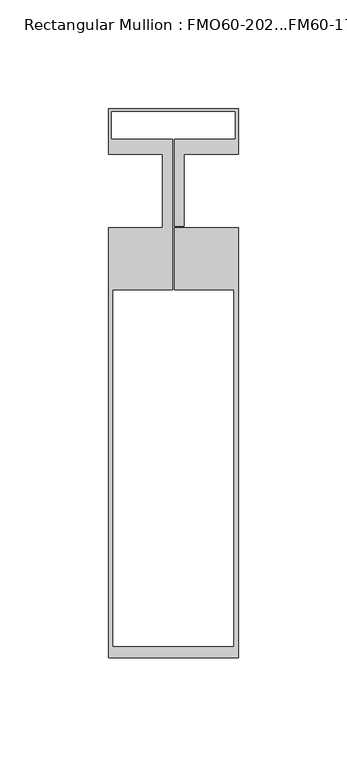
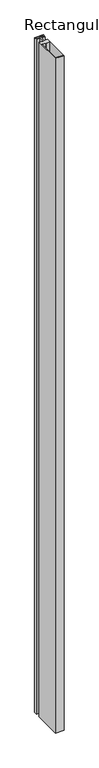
"""IFC4 building model written with IfcOpenShell, lengths in millimetres: member geometry, Rectangular Mullion : FMO60-202...FM60-17."""

from ifc_helpers import new_model, si_unit, point, frame, frame_2d, origin, place, context, project, spatial, polyline, circle_curve, trimmed, segment, composite_curve, outline, extrude, source, transform, mapped, element, save


def rectangular_mullion_fmo60_202_fm60_17_0408b8b0(model_context):
    return source(origin(), model_context, "Body", "SweptSolid", [
        extrude(outline(composite_curve([segment(polyline([(-29.5, 38.0025783), (29.5, 38.0025783)]), True, "CONTINUOUS"), segment(trimmed(circle_curve(frame_2d((29.5, 37.5025783)), 0.5), [point((29.5, 38.0025783))], [point((30.0, 37.5025783))], False, "CARTESIAN"), True, "CONTINUOUS"), segment(polyline([(30.0, 37.5025783), (30.0, 17.0), (5.0, 17.0), (5.0, -16.2), (0.5, -16.2), (0.5, 23.8476589), (28.7, 23.8476589), (28.7, 36.6912572), (-28.685, 36.6912572), (-28.685, 23.8476589), (-0.5, 23.8476589), (-0.5, -45.5034642), (-28.0, -45.5034642), (-28.0, -210.007942), (28.0, -210.007942), (28.0, -45.5034642), (0.5, -45.5034642), (0.5, -17.0), (30.0, -17.0), (30.0, -215.009342), (-30.0, -215.009342), (-30.0, -17.0), (-5.0, -17.0), (-5.0, 17.0), (-30.0, 17.0), (-30.0, 37.5025783)]), True, "CONTINUOUS"), segment(trimmed(circle_curve(frame_2d((-29.5, 37.5025783)), 0.5), [point((-30.0, 37.5025783))], [point((-29.5, 38.0025783))], False, "CARTESIAN"), True, "CONTINUOUS")], self_intersect=False)), frame((0.0, 0.0, -5000.0), z_axis=(0.0, 0.0, 1.0), x_axis=(1.0, 0.0, 0.0)), (0.0, 0.0, 1.0), 5000.0),
    ])


if __name__ == "__main__":
    model = new_model("IFC4")
    model_context = context("Model", 3, world=origin())
    ifc_project = project(units=[si_unit("LENGTHUNIT", "METRE", prefix="MILLI")], contexts=[model_context])
    site = spatial("IfcSite", under=ifc_project)
    building = spatial("IfcBuilding", under=site)
    placement = place(None, origin())
    rectangular_mullion_fmo60_202_fm60_17_shape = rectangular_mullion_fmo60_202_fm60_17_0408b8b0(model_context)
    element("IfcMember", 1, ObjectType="Rectangular Mullion : FMO60-202...FM60-17", at=placement, inside=building, context=model_context, shape_type="MappedRepresentation", body=[
        mapped(rectangular_mullion_fmo60_202_fm60_17_shape, transform((0.0, 0.0, 0.0), x_axis=(1.0, 0.0, 0.0), y_axis=(0.0, 1.0, 0.0), z_axis=(0.0, 0.0, 1.0))),
    ])
    save(model, "model.ifc")
